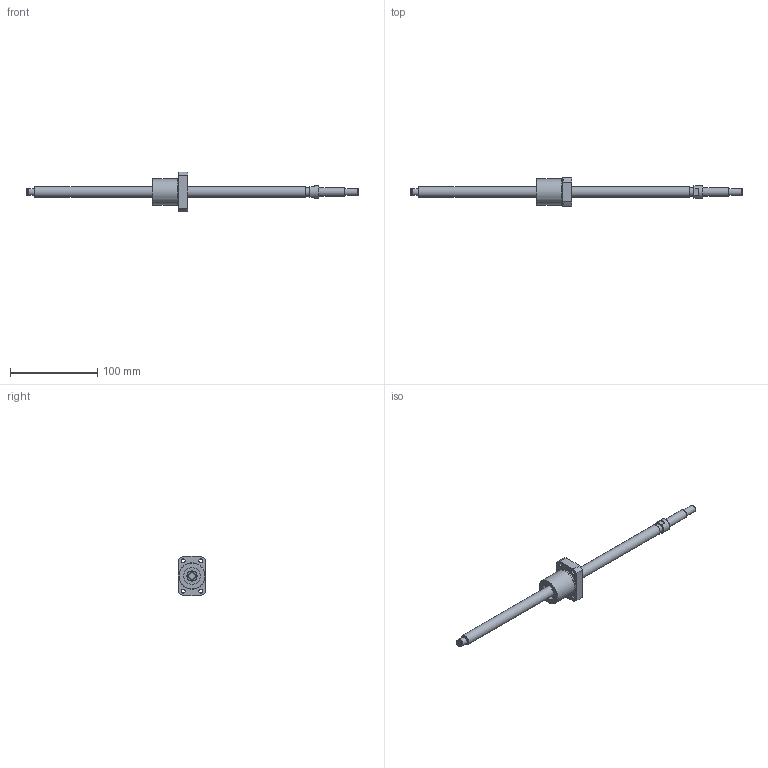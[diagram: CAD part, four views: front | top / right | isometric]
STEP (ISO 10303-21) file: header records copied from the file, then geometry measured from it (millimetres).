
FILE_DESCRIPTION(/* description */ ('STEP AP203'),/* implementation_level */ '2;1');
FILE_NAME(/* name */ 'BNK1205-2.5RRG0+380LC5Y(1750)',/* time_stamp */ '2024-07-09T09:09:34+02:00',/* author */ ('License CC BY-ND 4.0'),/* organization */ ('CADENAS'),/* preprocessor_version */ 'ST-DEVELOPER v19.3',/* originating_system */ 'PARTsolutions',/* authorisation */ ' ');
FILE_SCHEMA (('CONFIG_CONTROL_DESIGN'));
Length unit declared in the file: millimetre
Products named in the file (3): BNK1205-2.5RRG0+380LC5Y(1750); BNK 1205-2.5RRG0+380LC5Y Shaft; BNK 1205-2.5RRG0+380LC5YRR0 Nut
Assembly tree (2 placements, depth 2):
  BNK1205-2.5RRG0+380LC5Y(1750)
    BNK 1205-2.5RRG0+380LC5Y Shaft
    BNK 1205-2.5RRG0+380LC5YRR0 Nut
Bounding box: 380 x 32 x 45 mm (x, y, z)
Volume: 68002.7 mm3; surface area: 23620.5 mm2
Topology: 2 solids, 2 shells, 76 faces, 159 edges, 102 vertices
Faces by surface type: plane 29, cylinder 29, cone 16, torus 2
Full cylindrical faces by diameter (mm): 3 x3, 4.5 x4, 4.917 x1, 7.6 x1, 8 x7, 10 x2, 12 x2, 14 x1, 19 x2, 29.4 x1, 30 x1
Entity records: 1976 total; most frequent: CARTESIAN_POINT 386, DIRECTION 332, ORIENTED_EDGE 236, AXIS2_PLACEMENT_3D 154, FACE_BOUND 141, EDGE_LOOP 140, EDGE_CURVE 118, VERTEX_POINT 99
